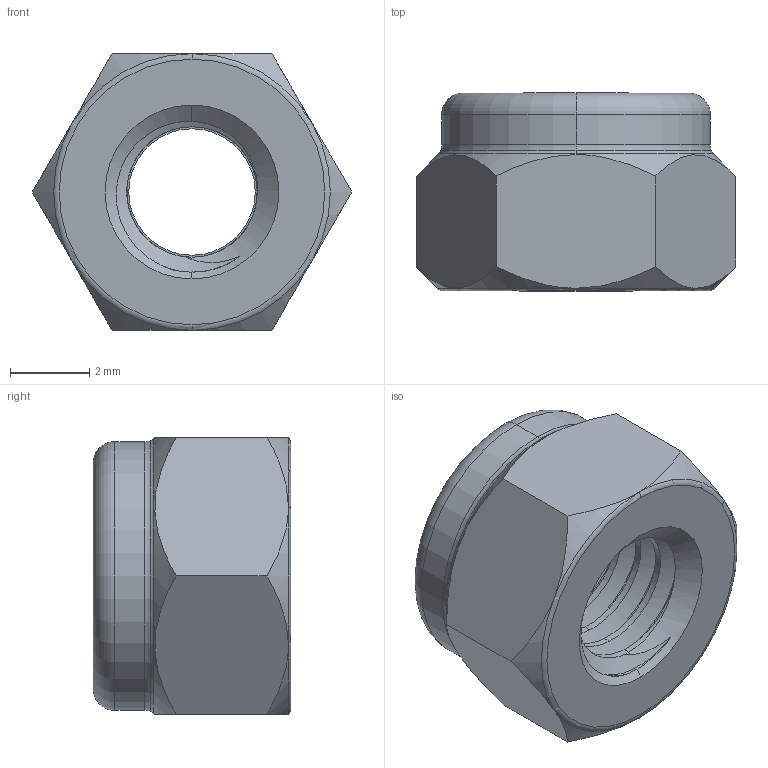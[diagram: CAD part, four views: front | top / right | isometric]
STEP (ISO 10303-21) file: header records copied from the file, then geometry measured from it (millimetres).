
FILE_DESCRIPTION (( 'STEP AP203' ), '1' );
FILE_NAME ('TANK-304-M4.STEP', '2026-08-25T01:58:06', ( '' ), ( '' ), 'SwSTEP 2.0', 'SolidWorks 2020', '' );
FILE_SCHEMA (( 'CONFIG_CONTROL_DESIGN' ));
Length unit declared in the file: millimetre
Products named in the file (1): TANK-304-M4
Bounding box: 8.08 x 5 x 7 mm (x, y, z)
Volume: 140.8 mm3; surface area: 354.9 mm2
Topology: 2 solids, 2 shells, 57 faces, 142 edges, 89 vertices
Faces by surface type: cylinder 17, cone 15, torus 12, plane 10, bspline 3
Entity records: 3496 total; most frequent: CARTESIAN_POINT 2148, ORIENTED_EDGE 284, DIRECTION 247, EDGE_CURVE 142, AXIS2_PLACEMENT_3D 108, VERTEX_POINT 89, EDGE_LOOP 61, FACE_OUTER_BOUND 57
